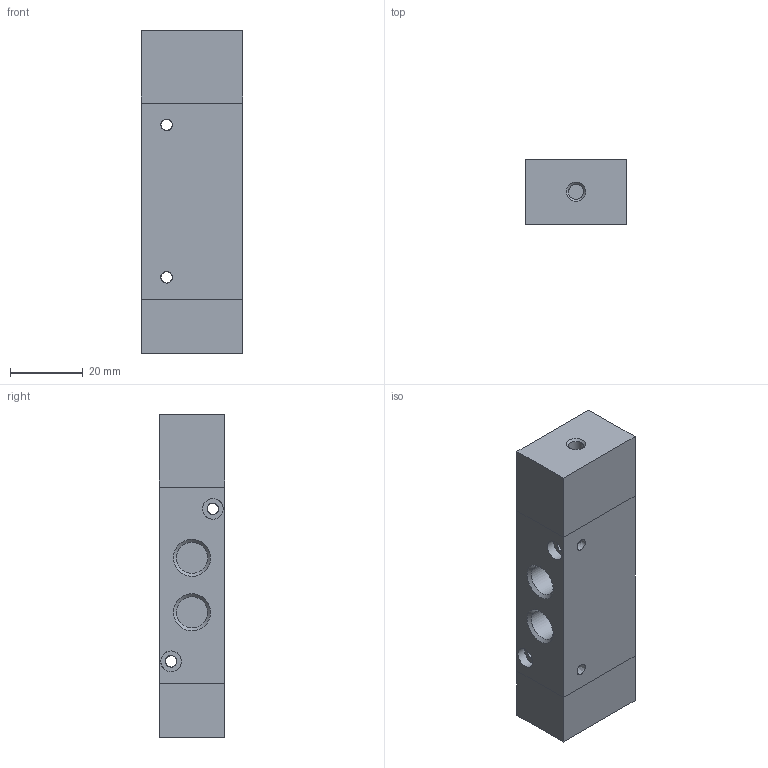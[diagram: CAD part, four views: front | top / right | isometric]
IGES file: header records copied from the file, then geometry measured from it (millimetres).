
Global section: file name: 808_52_11_12; native system: Autodesk Inventor 2017; preprocessor: unknown; organization: Pneumax S.p.A.; date: 20180116.113406; units: millimetre
Bounding box: 28 x 18 x 89 mm (x, y, z)
Volume: 41539.4 mm3; surface area: 11151.8 mm2
Topology: 1 solids, 1 shells, 46 faces, 122 edges, 84 vertices
Faces by surface type: bspline 46
